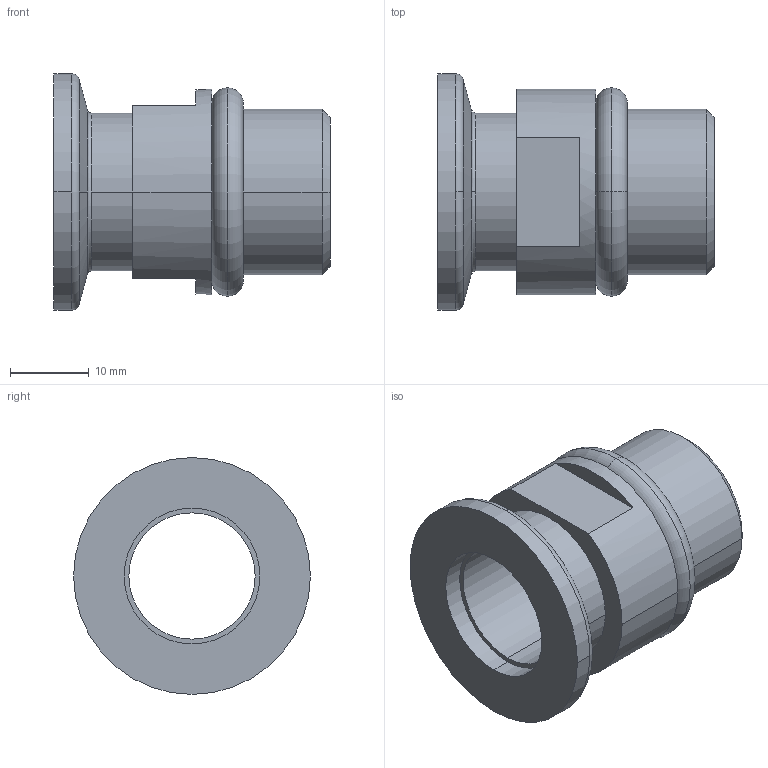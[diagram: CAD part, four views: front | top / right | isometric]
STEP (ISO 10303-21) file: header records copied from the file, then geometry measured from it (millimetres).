
FILE_DESCRIPTION((''),'2;1');
FILE_NAME('W:\211-367.stp','2003-10-10T15:26:45',('KAA'),(''),'Autodesk Inventor (R) 6.0','Autodesk Inventor (R) 6.0','');
FILE_SCHEMA(('CONFIG_CONTROL_DESIGN'));
Length unit declared in the file: millimetre
Products named in the file (1): 211-367
Bounding box: 35 x 30 x 30 mm (x, y, z)
Volume: 8160.4 mm3; surface area: 6595.6 mm2
Topology: 1 solids, 1 shells, 41 faces, 98 edges, 60 vertices
Faces by surface type: cylinder 16, plane 11, torus 8, cone 4, bspline 2
Entity records: 1401 total; most frequent: CARTESIAN_POINT 288, DIRECTION 248, ORIENTED_EDGE 196, AXIS2_PLACEMENT_3D 110, EDGE_CURVE 98, CIRCLE 70, VERTEX_POINT 60, EDGE_LOOP 48
